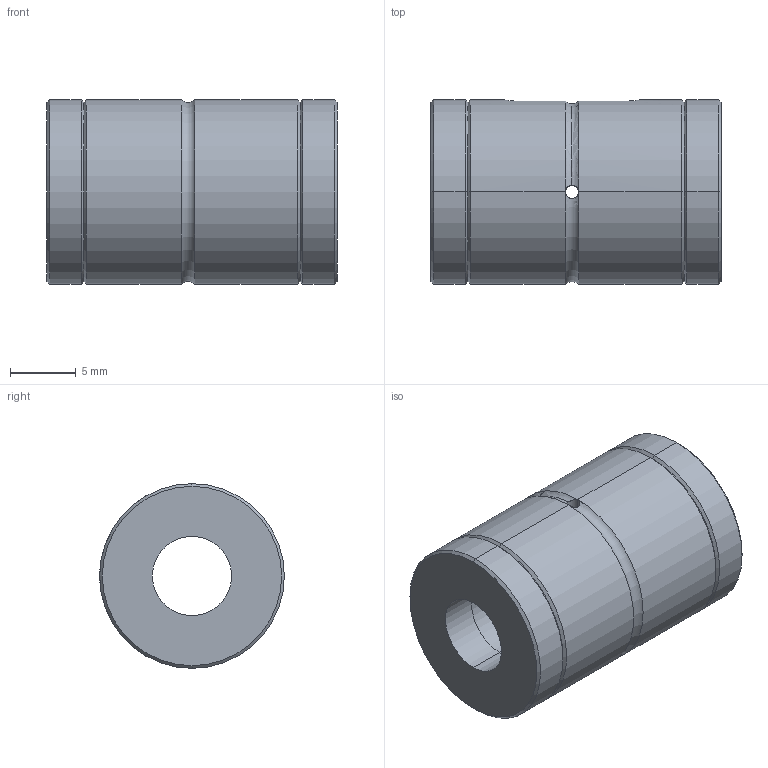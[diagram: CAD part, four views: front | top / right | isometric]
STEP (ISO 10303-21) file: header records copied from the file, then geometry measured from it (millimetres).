
FILE_DESCRIPTION (( 'STEP AP203' ), '1' );
FILE_NAME ('KLT006T2.STEP', '2023-08-11T07:26:24', ( 'Microsoft' ), ( 'Microsoft' ), 'SwSTEP 2.0', 'SolidWorks 2022', '' );
FILE_SCHEMA (( 'CONFIG_CONTROL_DESIGN' ));
Length unit declared in the file: millimetre
Products named in the file (4): 零件6^KLT006T2; 零件4^KLT006T2; KLT006T2; 零件7^KLT006T2
Assembly tree (3 placements, depth 2):
  KLT006T2
    零件4^KLT006T2
    零件6^KLT006T2
    零件7^KLT006T2
Bounding box: 22 x 14 x 14 mm (x, y, z)
Volume: 2718.5 mm3; surface area: 2155.9 mm2
Topology: 3 solids, 3 shells, 46 faces, 104 edges, 60 vertices
Faces by surface type: cylinder 20, cone 12, plane 9, torus 5
Entity records: 1836 total; most frequent: CARTESIAN_POINT 380, DIRECTION 238, ORIENTED_EDGE 208, EDGE_CURVE 104, AXIS2_PLACEMENT_3D 98, VERTEX_POINT 60, EDGE_LOOP 52, FACE_OUTER_BOUND 46
